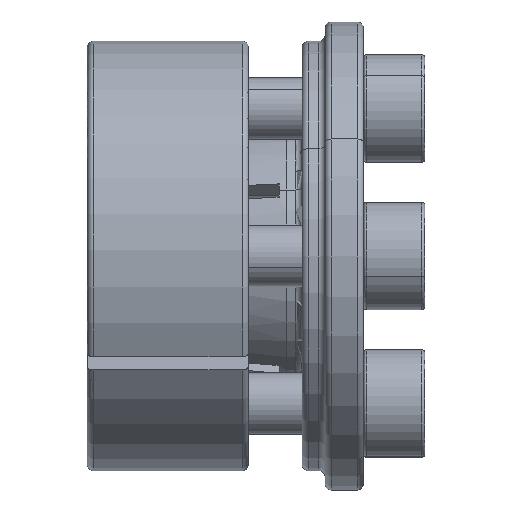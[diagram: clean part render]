
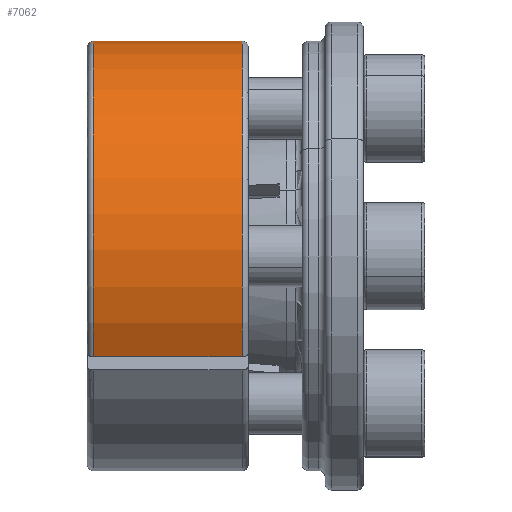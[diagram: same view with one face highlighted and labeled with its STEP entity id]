
A CAD part, front view. The second image highlights one B-rep face of the part: STEP entity #7062.
In plain terms, the highlighted cylindrical face has radius 14 mm (diameter 28 mm), a partial arc.
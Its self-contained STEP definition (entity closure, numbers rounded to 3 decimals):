
#1080 = DIRECTION ( 'NONE',  ( 1., 0., 0. ) ) ;
#1081 = VECTOR ( 'NONE', #1080, 1000. ) ;
#1083 = CARTESIAN_POINT ( 'NONE',  ( 15.022, 29.517, 14. ) ) ;
#1085 = CARTESIAN_POINT ( 'NONE',  ( 13.372, 17.15, -6.563 ) ) ;
#1086 = LINE ( 'NONE', #1085, #1081 ) ;
#1087 = DIRECTION ( 'NONE',  ( 0., 0., 1. ) ) ;
#1088 = DIRECTION ( 'NONE',  ( -1., 0., 0. ) ) ;
#1089 = CARTESIAN_POINT ( 'NONE',  ( 24.722, 29.517, 0. ) ) ;
#1090 = AXIS2_PLACEMENT_3D ( 'NONE', #1089, #1088, #1087 ) ;
#1091 = CIRCLE ( 'NONE', #1090, 14. ) ;
#1094 = AXIS2_PLACEMENT_3D ( 'NONE', #1104, #1103, #1102 ) ;
#1095 = CARTESIAN_POINT ( 'NONE',  ( 24.722, 17.15, -6.563 ) ) ;
#1099 = CARTESIAN_POINT ( 'NONE',  ( 15.022, 17.15, -6.563 ) ) ;
#1102 = DIRECTION ( 'NONE',  ( 0., 0., 1. ) ) ;
#1103 = DIRECTION ( 'NONE',  ( -1., 0., 0. ) ) ;
#1104 = CARTESIAN_POINT ( 'NONE',  ( 13.372, 29.517, 0. ) ) ;
#1106 = CYLINDRICAL_SURFACE ( 'NONE', #1094, 14. ) ;
#1108 = FACE_OUTER_BOUND ( 'NONE', #7050, .T. ) ;
#1125 = CARTESIAN_POINT ( 'NONE',  ( 24.722, 29.517, 14. ) ) ;
#1141 = DIRECTION ( 'NONE',  ( -1., 0., 0. ) ) ;
#1142 = VECTOR ( 'NONE', #1141, 1000. ) ;
#1149 = CARTESIAN_POINT ( 'NONE',  ( 13.372, 29.517, 14. ) ) ;
#1150 = LINE ( 'NONE', #1149, #1142 ) ;
#1206 = AXIS2_PLACEMENT_3D ( 'NONE', #1215, #1214, #1213 ) ;
#1213 = DIRECTION ( 'NONE',  ( 0., 0., 1. ) ) ;
#1214 = DIRECTION ( 'NONE',  ( -1., 0., 0. ) ) ;
#1215 = CARTESIAN_POINT ( 'NONE',  ( 15.022, 29.517, 0. ) ) ;
#1216 = CIRCLE ( 'NONE', #1206, 14. ) ;
#7038 = VERTEX_POINT ( 'NONE', #1095 ) ;
#7039 = EDGE_CURVE ( 'NONE', #7038, #7059, #1091, .T. ) ;
#7040 = ORIENTED_EDGE ( 'NONE', *, *, #7105, .F. ) ;
#7041 = VERTEX_POINT ( 'NONE', #1099 ) ;
#7042 = ORIENTED_EDGE ( 'NONE', *, *, #7069, .T. ) ;
#7043 = ORIENTED_EDGE ( 'NONE', *, *, #7039, .T. ) ;
#7044 = EDGE_CURVE ( 'NONE', #7041, #7038, #1086, .T. ) ;
#7050 = EDGE_LOOP ( 'NONE', ( #7043, #7042, #7040, #8400 ) ) ;
#7051 = VERTEX_POINT ( 'NONE', #1083 ) ;
#7059 = VERTEX_POINT ( 'NONE', #1125 ) ;
#7062 = ADVANCED_FACE ( 'NONE', ( #1108 ), #1106, .T. ) ;
#7069 = EDGE_CURVE ( 'NONE', #7059, #7051, #1150, .T. ) ;
#7105 = EDGE_CURVE ( 'NONE', #7041, #7051, #1216, .T. ) ;
#8400 = ORIENTED_EDGE ( 'NONE', *, *, #7044, .T. ) ;
